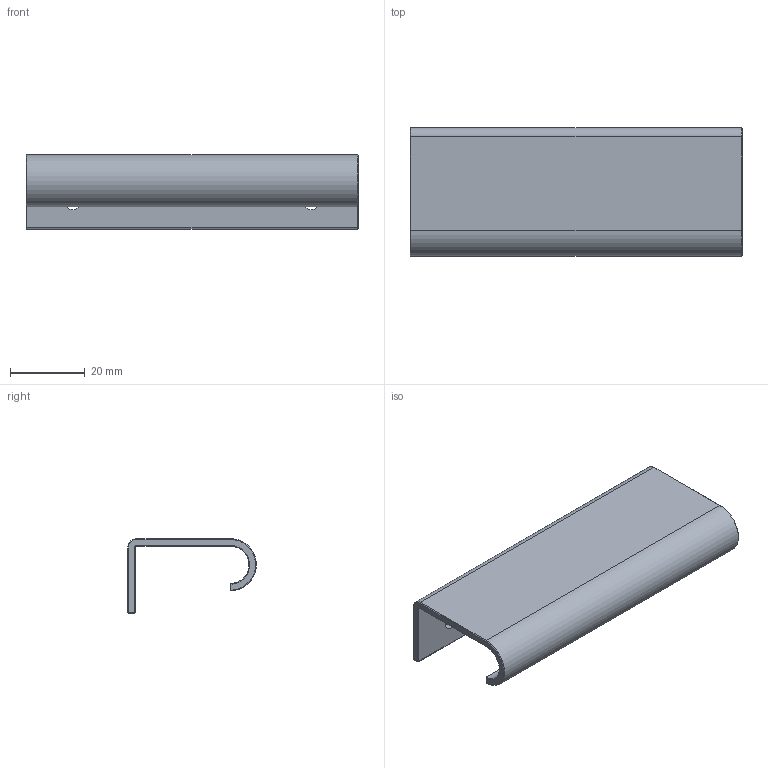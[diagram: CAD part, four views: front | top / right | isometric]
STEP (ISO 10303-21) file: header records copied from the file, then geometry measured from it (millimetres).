
FILE_DESCRIPTION(('Open CASCADE Model'),'2;1');
FILE_NAME('RL-LIP-R-89','2026-10-19T21:24:01',('Author'),('Open CASCADE' ),'Open CASCADE STEP processor 8.0','build123d','Unknown');
FILE_SCHEMA(('AUTOMOTIVE_DESIGN { 1 0 10303 214 1 1 1 1 }'));
Length unit declared in the file: millimetre
Products named in the file (2): RL-LIP-R-89; brass_RL-LIPR89-18__e
Assembly tree (1 placements, depth 2):
  RL-LIP-R-89
    brass_RL-LIPR89-18__e
Bounding box: 89 x 34.5 x 20 mm (x, y, z)
Volume: 11264.7 mm3; surface area: 11881.9 mm2
Topology: 1 solids, 1 shells, 40 faces, 90 edges, 52 vertices
Faces by surface type: plane 20, cone 12, cylinder 8
Full cylindrical faces by diameter (mm): 4.5 x2
Entity records: 2302 total; most frequent: CARTESIAN_POINT 492, DIRECTION 328, ORIENTED_EDGE 180, PCURVE 180, DEFINITIONAL_REPRESENTATION 180, LINE 174, VECTOR 174, EDGE_CURVE 90
